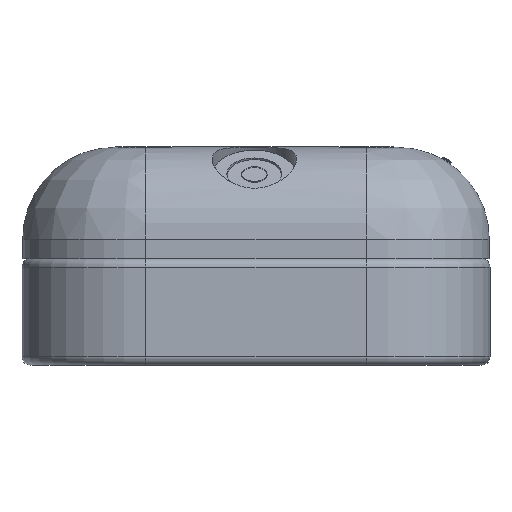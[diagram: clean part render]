
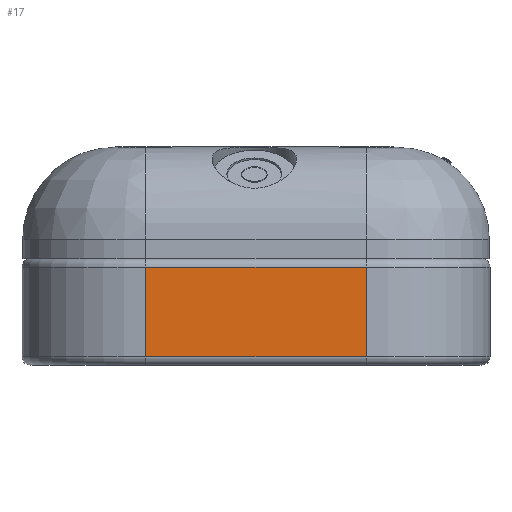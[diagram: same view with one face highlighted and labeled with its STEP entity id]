
A CAD part, left-side view. The second image highlights one B-rep face of the part: STEP entity #17.
In plain terms, the highlighted planar face has unit normal (-1, 0, 0).
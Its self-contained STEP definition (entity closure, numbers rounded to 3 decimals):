
#17 = ADVANCED_FACE('',(#18),#32,.F.);
#18 = FACE_BOUND('',#19,.F.);
#19 = EDGE_LOOP('',(#20,#55,#83,#111));
#20 = ORIENTED_EDGE('',*,*,#21,.F.);
#21 = EDGE_CURVE('',#22,#24,#26,.T.);
#22 = VERTEX_POINT('',#23);
#23 = CARTESIAN_POINT('',(-38.5,-14.,-2.));
#24 = VERTEX_POINT('',#25);
#25 = CARTESIAN_POINT('',(-38.5,-14.,9.2));
#26 = SURFACE_CURVE('',#27,(#31,#43),.PCURVE_S1.);
#27 = LINE('',#28,#29);
#28 = CARTESIAN_POINT('',(-38.5,-14.,-3.05));
#29 = VECTOR('',#30,1.);
#30 = DIRECTION('',(0.,0.,1.));
#31 = PCURVE('',#32,#37);
#32 = PLANE('',#33);
#33 = AXIS2_PLACEMENT_3D('',#34,#35,#36);
#34 = CARTESIAN_POINT('',(-38.5,-29.5,-3.05));
#35 = DIRECTION('',(1.,0.,-0.));
#36 = DIRECTION('',(0.,0.,1.));
#37 = DEFINITIONAL_REPRESENTATION('',(#38),#42);
#38 = LINE('',#39,#40);
#39 = CARTESIAN_POINT('',(0.,-15.5));
#40 = VECTOR('',#41,1.);
#41 = DIRECTION('',(1.,0.));
#42 = ( GEOMETRIC_REPRESENTATION_CONTEXT(2) 
PARAMETRIC_REPRESENTATION_CONTEXT() REPRESENTATION_CONTEXT('2D SPACE',''
  ) );
#43 = PCURVE('',#44,#49);
#44 = CYLINDRICAL_SURFACE('',#45,15.5);
#45 = AXIS2_PLACEMENT_3D('',#46,#47,#48);
#46 = CARTESIAN_POINT('',(-23.,-14.,-3.05));
#47 = DIRECTION('',(0.,0.,1.));
#48 = DIRECTION('',(-1.,-0.,0.));
#49 = DEFINITIONAL_REPRESENTATION('',(#50),#54);
#50 = LINE('',#51,#52);
#51 = CARTESIAN_POINT('',(0.,0.));
#52 = VECTOR('',#53,1.);
#53 = DIRECTION('',(0.,1.));
#54 = ( GEOMETRIC_REPRESENTATION_CONTEXT(2) 
PARAMETRIC_REPRESENTATION_CONTEXT() REPRESENTATION_CONTEXT('2D SPACE',''
  ) );
#55 = ORIENTED_EDGE('',*,*,#56,.T.);
#56 = EDGE_CURVE('',#22,#57,#59,.T.);
#57 = VERTEX_POINT('',#58);
#58 = CARTESIAN_POINT('',(-38.5,13.6,-2.));
#59 = SURFACE_CURVE('',#60,(#64,#71),.PCURVE_S1.);
#60 = LINE('',#61,#62);
#61 = CARTESIAN_POINT('',(-38.5,-14.,-2.));
#62 = VECTOR('',#63,1.);
#63 = DIRECTION('',(-0.,1.,0.));
#64 = PCURVE('',#32,#65);
#65 = DEFINITIONAL_REPRESENTATION('',(#66),#70);
#66 = LINE('',#67,#68);
#67 = CARTESIAN_POINT('',(1.05,-15.5));
#68 = VECTOR('',#69,1.);
#69 = DIRECTION('',(0.,-1.));
#70 = ( GEOMETRIC_REPRESENTATION_CONTEXT(2) 
PARAMETRIC_REPRESENTATION_CONTEXT() REPRESENTATION_CONTEXT('2D SPACE',''
  ) );
#71 = PCURVE('',#72,#77);
#72 = CYLINDRICAL_SURFACE('',#73,1.05);
#73 = AXIS2_PLACEMENT_3D('',#74,#75,#76);
#74 = CARTESIAN_POINT('',(-37.45,-14.,-2.));
#75 = DIRECTION('',(-0.,1.,0.));
#76 = DIRECTION('',(-1.,-0.,0.));
#77 = DEFINITIONAL_REPRESENTATION('',(#78),#82);
#78 = LINE('',#79,#80);
#79 = CARTESIAN_POINT('',(-0.,0.));
#80 = VECTOR('',#81,1.);
#81 = DIRECTION('',(-0.,1.));
#82 = ( GEOMETRIC_REPRESENTATION_CONTEXT(2) 
PARAMETRIC_REPRESENTATION_CONTEXT() REPRESENTATION_CONTEXT('2D SPACE',''
  ) );
#83 = ORIENTED_EDGE('',*,*,#84,.T.);
#84 = EDGE_CURVE('',#57,#85,#87,.T.);
#85 = VERTEX_POINT('',#86);
#86 = CARTESIAN_POINT('',(-38.5,13.6,9.2));
#87 = SURFACE_CURVE('',#88,(#92,#99),.PCURVE_S1.);
#88 = LINE('',#89,#90);
#89 = CARTESIAN_POINT('',(-38.5,13.6,-3.05));
#90 = VECTOR('',#91,1.);
#91 = DIRECTION('',(0.,0.,1.));
#92 = PCURVE('',#32,#93);
#93 = DEFINITIONAL_REPRESENTATION('',(#94),#98);
#94 = LINE('',#95,#96);
#95 = CARTESIAN_POINT('',(0.,-43.1));
#96 = VECTOR('',#97,1.);
#97 = DIRECTION('',(1.,0.));
#98 = ( GEOMETRIC_REPRESENTATION_CONTEXT(2) 
PARAMETRIC_REPRESENTATION_CONTEXT() REPRESENTATION_CONTEXT('2D SPACE',''
  ) );
#99 = PCURVE('',#100,#105);
#100 = CYLINDRICAL_SURFACE('',#101,15.5);
#101 = AXIS2_PLACEMENT_3D('',#102,#103,#104);
#102 = CARTESIAN_POINT('',(-23.,13.6,-3.05));
#103 = DIRECTION('',(0.,0.,1.));
#104 = DIRECTION('',(-1.,-0.,0.));
#105 = DEFINITIONAL_REPRESENTATION('',(#106),#110);
#106 = LINE('',#107,#108);
#107 = CARTESIAN_POINT('',(-0.,0.));
#108 = VECTOR('',#109,1.);
#109 = DIRECTION('',(-0.,1.));
#110 = ( GEOMETRIC_REPRESENTATION_CONTEXT(2) 
PARAMETRIC_REPRESENTATION_CONTEXT() REPRESENTATION_CONTEXT('2D SPACE',''
  ) );
#111 = ORIENTED_EDGE('',*,*,#112,.F.);
#112 = EDGE_CURVE('',#24,#85,#113,.T.);
#113 = SURFACE_CURVE('',#114,(#118,#125),.PCURVE_S1.);
#114 = LINE('',#115,#116);
#115 = CARTESIAN_POINT('',(-38.5,-14.,9.2));
#116 = VECTOR('',#117,1.);
#117 = DIRECTION('',(-0.,1.,0.));
#118 = PCURVE('',#32,#119);
#119 = DEFINITIONAL_REPRESENTATION('',(#120),#124);
#120 = LINE('',#121,#122);
#121 = CARTESIAN_POINT('',(12.25,-15.5));
#122 = VECTOR('',#123,1.);
#123 = DIRECTION('',(0.,-1.));
#124 = ( GEOMETRIC_REPRESENTATION_CONTEXT(2) 
PARAMETRIC_REPRESENTATION_CONTEXT() REPRESENTATION_CONTEXT('2D SPACE',''
  ) );
#125 = PCURVE('',#126,#131);
#126 = CYLINDRICAL_SURFACE('',#127,1.05);
#127 = AXIS2_PLACEMENT_3D('',#128,#129,#130);
#128 = CARTESIAN_POINT('',(-37.45,-14.,9.2));
#129 = DIRECTION('',(-0.,1.,0.));
#130 = DIRECTION('',(-1.,-0.,0.));
#131 = DEFINITIONAL_REPRESENTATION('',(#132),#136);
#132 = LINE('',#133,#134);
#133 = CARTESIAN_POINT('',(0.,0.));
#134 = VECTOR('',#135,1.);
#135 = DIRECTION('',(0.,1.));
#136 = ( GEOMETRIC_REPRESENTATION_CONTEXT(2) 
PARAMETRIC_REPRESENTATION_CONTEXT() REPRESENTATION_CONTEXT('2D SPACE',''
  ) );
